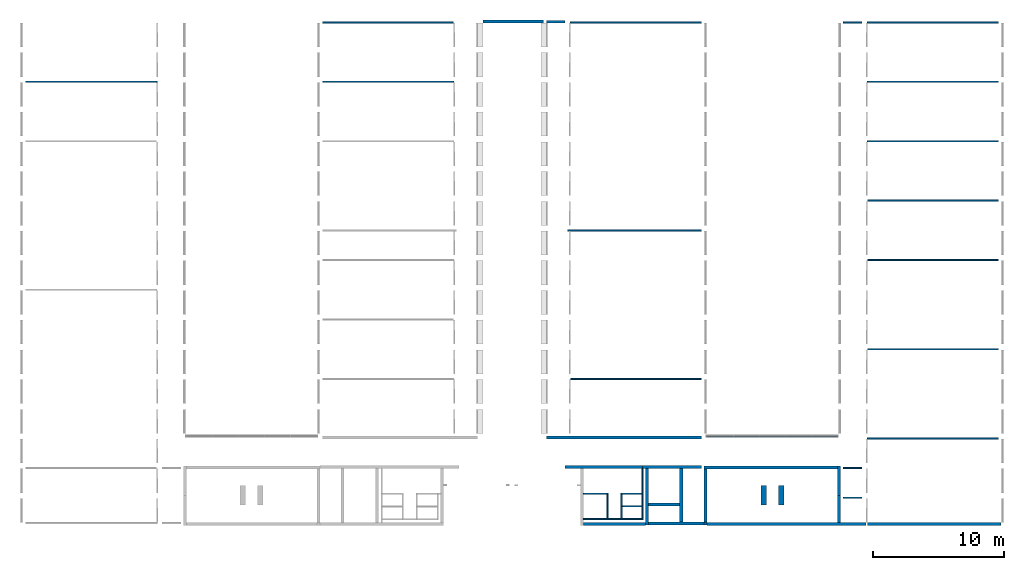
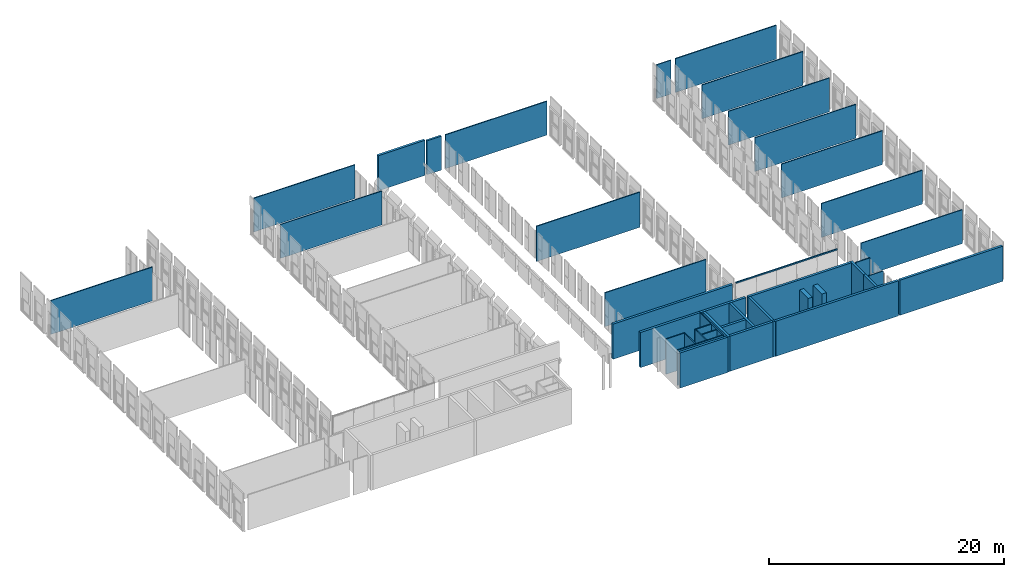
# One storey, part 5 of 13: 43 walls, 1 opening.
"""IFC2X3 building model written with IfcOpenShell, lengths in millimetres."""

from ifc_helpers import new_model, entity, si_unit, converted_unit, derived_unit, direction, frame, frame_2d, origin, place, context, subcontext, project, spatial, rectangle, extrude, material, layer, layer_set, layer_usage, type_object, element, save


model = new_model("IFC2X3")

# Units and contexts
model_context = context("Model", 3, precision=0.01, world=origin(), true_north=direction((6.12303176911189e-17, 1.0)))
body_context = subcontext(model_context, "Body", "Model", "MODEL_VIEW")
ifc_project = project(units=[si_unit("LENGTHUNIT", "METRE", prefix="MILLI"), si_unit("AREAUNIT", "SQUARE_METRE"), si_unit("VOLUMEUNIT", "CUBIC_METRE"), converted_unit("PLANEANGLEUNIT", "DEGREE", entity("IfcRatioMeasure", 0.0174532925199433), si_unit("PLANEANGLEUNIT", "RADIAN"), dimensions=[0, 0, 0, 0, 0, 0, 0]), si_unit("MASSUNIT", "GRAM", prefix="KILO"), derived_unit("MASSDENSITYUNIT", [(si_unit("MASSUNIT", "GRAM", prefix="KILO"), 1), (si_unit("LENGTHUNIT", "METRE"), -3)]), derived_unit("MOMENTOFINERTIAUNIT", [(si_unit("LENGTHUNIT", "METRE"), 4)]), si_unit("TIMEUNIT", "SECOND"), si_unit("FREQUENCYUNIT", "HERTZ"), si_unit("THERMODYNAMICTEMPERATUREUNIT", "DEGREE_CELSIUS"), derived_unit("THERMALTRANSMITTANCEUNIT", [(si_unit("MASSUNIT", "GRAM", prefix="KILO"), 1), (si_unit("THERMODYNAMICTEMPERATUREUNIT", "KELVIN"), -1), (si_unit("TIMEUNIT", "SECOND"), -3)]), derived_unit("VOLUMETRICFLOWRATEUNIT", [(si_unit("LENGTHUNIT", "METRE"), 3), (si_unit("TIMEUNIT", "SECOND"), -1)]), si_unit("ELECTRICCURRENTUNIT", "AMPERE"), si_unit("ELECTRICVOLTAGEUNIT", "VOLT"), si_unit("POWERUNIT", "WATT"), si_unit("FORCEUNIT", "NEWTON", prefix="KILO"), si_unit("ILLUMINANCEUNIT", "LUX"), si_unit("LUMINOUSFLUXUNIT", "LUMEN"), si_unit("LUMINOUSINTENSITYUNIT", "CANDELA"), derived_unit("USERDEFINED", [(si_unit("MASSUNIT", "GRAM", prefix="KILO"), -1), (si_unit("LENGTHUNIT", "METRE"), -2), (si_unit("TIMEUNIT", "SECOND"), 3), (si_unit("LUMINOUSFLUXUNIT", "LUMEN"), 1)]), derived_unit("LINEARVELOCITYUNIT", [(si_unit("LENGTHUNIT", "METRE"), 1), (si_unit("TIMEUNIT", "SECOND"), -1)]), si_unit("PRESSUREUNIT", "PASCAL"), derived_unit("USERDEFINED", [(si_unit("LENGTHUNIT", "METRE"), -2), (si_unit("MASSUNIT", "GRAM", prefix="KILO"), 1), (si_unit("TIMEUNIT", "SECOND"), -2)]), derived_unit("LINEARFORCEUNIT", [(si_unit("MASSUNIT", "GRAM", prefix="KILO"), 1), (si_unit("LENGTHUNIT", "METRE"), 1), (si_unit("TIMEUNIT", "SECOND"), -2), (si_unit("LENGTHUNIT", "METRE"), -1)]), derived_unit("PLANARFORCEUNIT", [(si_unit("MASSUNIT", "GRAM", prefix="KILO"), 1), (si_unit("LENGTHUNIT", "METRE"), 1), (si_unit("TIMEUNIT", "SECOND"), -2), (si_unit("LENGTHUNIT", "METRE"), -2)])], contexts=[model_context])

# Site, building, storey
site_placement = place(None, frame((10627.5135316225, 21939.0796949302, 0.0)))
site = spatial("IfcSite", under=ifc_project, at=site_placement, Name="Default", CompositionType="ELEMENT")
building_placement = place(site_placement, origin())
building = spatial("IfcBuilding", under=site, at=building_placement, CompositionType="ELEMENT")
storey_placement = place(building_placement, frame((0.0, 0.0, 7320.0)))
storey = spatial("IfcBuildingStorey", under=building, at=storey_placement, Name="R+2", CompositionType="ELEMENT", Elevation=7320.0)

# Wall, opening
ifc_material_1 = material(Name="Paint - White Lining")
ifc_layer_1 = layer(ifc_material_1, 3.0)
ifc_material_2 = material(Name="Concrete Masonry Units")
ifc_layer_2 = layer(ifc_material_2, 94.0)
ifc_layer_3 = layer(ifc_material_1, 3.0)
ifc_layer_set_1 = layer_set([ifc_layer_1, ifc_layer_2, ifc_layer_3], Name="Basic Wall:Wall-Int 100")
ifc_layer_usage_1 = layer_usage(ifc_layer_set_1, "AXIS2", "POSITIVE", -50.0)
wall_type_1 = type_object("IfcWallType", Name="Basic Wall:Wall-Int 100", PredefinedType="STANDARD", material=ifc_layer_set_1)
wall_1_placement = place(storey_placement, frame((51357.4864683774, -15206.0796949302, 3520.0), z_axis=(0.0, 0.0, 1.0), x_axis=(-1.0, 0.0, 0.0)))
wall_1 = element("IfcWallStandardCase", 1, at=wall_1_placement, inside=storey, type_object=wall_type_1, material=ifc_layer_usage_1, Name="Basic Wall:Wall-Int 100", ObjectType="Basic Wall:Wall-Int 100", context=body_context, shape_type="SweptSolid", body=[
    extrude(rectangle(XDim=9950.0, YDim=99.9999999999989, at=frame_2d((4975.0, 0.0), x_axis=(-1.0, 0.0))), origin(), (0.0, 0.0, 1.0), 140.000000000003),
])
opening_placement = place(wall_1_placement, origin())
element("IfcOpeningElement", 2, at=opening_placement, cuts=wall_1, Name="Basic Wall:Wall-Int 100", ObjectType="Opening", context=body_context, shape_type="SweptSolid", body=[
    extrude(rectangle(XDim=3520.0, YDim=9950.0, at=frame_2d((4.09272615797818e-12, -4.54747350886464e-13), x_axis=(0.0, 1.0))), frame((4975.0, -202.399999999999, -1760.0), z_axis=(0.0, 1.0, 0.0), x_axis=(-1.0, 0.0, 0.0)), (0.0, 0.0, 1.0), 404.799999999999),
])

# Walls
ifc_layer_usage_2 = layer_usage(ifc_layer_set_1, "AXIS2", "NEGATIVE", 50.0)
wall_2_placement = place(storey_placement, frame((40977.4864683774, 495.920305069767, 0.0), z_axis=(0.0, 0.0, 1.0), x_axis=(-1.0, 0.0, 0.0)))
element("IfcWallStandardCase", 3, at=wall_2_placement, inside=storey, type_object=wall_type_1, material=ifc_layer_usage_2, Name="Basic Wall:Wall-Int 100", ObjectType="Basic Wall:Wall-Int 100", context=body_context, shape_type="SweptSolid", body=[
    extrude(rectangle(XDim=10165.0, YDim=100.0, at=frame_2d((5082.50000000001, -7.105427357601e-15), x_axis=(-1.0, 0.0))), origin(), (0.0, 0.0, 1.0), 3660.0),
])
ifc_layer_usage_3 = layer_usage(ifc_layer_set_1, "AXIS2", "POSITIVE", -50.0)
wall_3_placement = place(storey_placement, frame((-10413.5135316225, 11795.2666202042, 0.0)))
element("IfcWallStandardCase", 4, at=wall_3_placement, inside=storey, type_object=wall_type_1, material=ifc_layer_usage_3, Name="Basic Wall:Wall-Int 100", ObjectType="Basic Wall:Wall-Int 100", context=body_context, shape_type="SweptSolid", body=[
    extrude(rectangle(XDim=10000.0, YDim=99.9999999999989, at=frame_2d((5000.0, -7.8159700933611e-14), x_axis=(-1.0, 0.0))), origin(), (0.0, 0.0, 1.0), 3520.0),
])
ifc_layer_usage_4 = layer_usage(ifc_layer_set_1, "AXIS2", "NEGATIVE", 50.0)
wall_4_placement = place(storey_placement, frame((22141.4496345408, 11795.9203008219, 0.0), z_axis=(0.0, 0.0, 1.0), x_axis=(-1.0, 0.0, 0.0)))
element("IfcWallStandardCase", 5, at=wall_4_placement, inside=storey, type_object=wall_type_1, material=ifc_layer_usage_4, Name="Basic Wall:Wall-Int 100", ObjectType="Basic Wall:Wall-Int 100", context=body_context, shape_type="SweptSolid", body=[
    extrude(rectangle(XDim=9963.96316616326, YDim=99.9999999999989, at=frame_2d((4981.98158308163, 0.0), x_axis=(-1.0, 0.0))), origin(), (0.0, 0.0, 1.0), 3520.0),
])
ifc_layer_usage_5 = layer_usage(ifc_layer_set_1, "AXIS2", "NEGATIVE", 50.0)
wall_5_placement = place(storey_placement, frame((40977.4864683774, -10804.0796949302, 0.0), z_axis=(0.0, 0.0, 1.0), x_axis=(-1.0, 0.0, 0.0)))
element("IfcWallStandardCase", 6, at=wall_5_placement, inside=storey, type_object=wall_type_1, material=ifc_layer_usage_5, Name="Basic Wall:Wall-Int 100", ObjectType="Basic Wall:Wall-Int 100", context=body_context, shape_type="SweptSolid", body=[
    extrude(rectangle(XDim=9950.0, YDim=99.9999999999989, at=frame_2d((4975.0, 0.0), x_axis=(-1.0, 0.0))), origin(), (0.0, 0.0, 1.0), 3520.0),
])
ifc_layer_usage_6 = layer_usage(ifc_layer_set_1, "AXIS2", "NEGATIVE", 50.0)
wall_6_placement = place(storey_placement, frame((63567.4864683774, 7275.92030506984, 0.0), z_axis=(0.0, 0.0, 1.0), x_axis=(-1.0, 0.0, 0.0)))
element("IfcWallStandardCase", 7, at=wall_6_placement, inside=storey, type_object=wall_type_1, material=ifc_layer_usage_6, Name="Basic Wall:Wall-Int 100", ObjectType="Basic Wall:Wall-Int 100", context=body_context, shape_type="SweptSolid", body=[
    extrude(rectangle(XDim=9951.99999999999, YDim=99.9999999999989, at=frame_2d((4975.99999999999, 0.0), x_axis=(-1.0, 0.0))), origin(), (0.0, 0.0, 1.0), 3520.0),
])
ifc_layer_usage_7 = layer_usage(ifc_layer_set_1, "AXIS2", "NEGATIVE", 50.0)
wall_7_placement = place(storey_placement, frame((63567.4864683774, 11795.9203050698, 0.0), z_axis=(0.0, 0.0, 1.0), x_axis=(-1.0, 0.0, 0.0)))
element("IfcWallStandardCase", 8, at=wall_7_placement, inside=storey, type_object=wall_type_1, material=ifc_layer_usage_7, Name="Basic Wall:Wall-Int 100", ObjectType="Basic Wall:Wall-Int 100", context=body_context, shape_type="SweptSolid", body=[
    extrude(rectangle(XDim=9951.99999999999, YDim=99.9999999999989, at=frame_2d((4975.99999999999, 0.0), x_axis=(-1.0, 0.0))), origin(), (0.0, 0.0, 1.0), 3520.0),
])
ifc_layer_usage_8 = layer_usage(ifc_layer_set_1, "AXIS2", "NEGATIVE", 50.0)
wall_8_placement = place(storey_placement, frame((63569.4864683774, 2755.92030506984, 0.0), z_axis=(0.0, 0.0, 1.0), x_axis=(-1.0, 0.0, 0.0)))
element("IfcWallStandardCase", 9, at=wall_8_placement, inside=storey, type_object=wall_type_1, material=ifc_layer_usage_8, Name="Basic Wall:Wall-Int 100", ObjectType="Basic Wall:Wall-Int 100", context=body_context, shape_type="SweptSolid", body=[
    extrude(rectangle(XDim=9952.0, YDim=100.0, at=frame_2d((4976.0, 0.0), x_axis=(-1.0, 0.0))), origin(), (0.0, 0.0, 1.0), 3520.0),
])
ifc_layer_usage_9 = layer_usage(ifc_layer_set_1, "AXIS2", "POSITIVE", -50.0)
wall_9_placement = place(storey_placement, frame((53617.4864683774, -1764.07969493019, 0.0)))
element("IfcWallStandardCase", 10, at=wall_9_placement, inside=storey, type_object=wall_type_1, material=ifc_layer_usage_9, Name="Basic Wall:Wall-Int 100", ObjectType="Basic Wall:Wall-Int 100", context=body_context, shape_type="SweptSolid", body=[
    extrude(rectangle(XDim=9949.99999999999, YDim=100.0, at=frame_2d((4975.0, 0.0), x_axis=(-1.0, 0.0))), origin(), (0.0, 0.0, 1.0), 3520.0),
])
ifc_layer_usage_10 = layer_usage(ifc_layer_set_1, "AXIS2", "POSITIVE", -50.0)
wall_10_placement = place(storey_placement, frame((53615.4864683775, -15324.0796949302, 0.0)))
element("IfcWallStandardCase", 11, at=wall_10_placement, inside=storey, type_object=wall_type_1, material=ifc_layer_usage_10, Name="Basic Wall:Wall-Int 100", ObjectType="Basic Wall:Wall-Int 100", context=body_context, shape_type="SweptSolid", body=[
    extrude(rectangle(XDim=9954.0, YDim=99.9999999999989, at=frame_2d((4977.0, 0.0), x_axis=(-1.0, 0.0))), origin(), (0.0, 0.0, 1.0), 3520.0),
])
ifc_layer_usage_11 = layer_usage(ifc_layer_set_1, "AXIS2", "NEGATIVE", 50.0)
wall_11_placement = place(storey_placement, frame((63567.4864683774, -8544.07969493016, 0.0), z_axis=(0.0, 0.0, 1.0), x_axis=(-1.0, 0.0, 0.0)))
element("IfcWallStandardCase", 12, at=wall_11_placement, inside=storey, type_object=wall_type_1, material=ifc_layer_usage_11, Name="Basic Wall:Wall-Int 100", ObjectType="Basic Wall:Wall-Int 100", context=body_context, shape_type="SweptSolid", body=[
    extrude(rectangle(XDim=9949.99999999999, YDim=99.9999999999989, at=frame_2d((4975.0, 0.0), x_axis=(-1.0, 0.0))), origin(), (0.0, 0.0, 1.0), 3520.0),
])
ifc_layer_usage_12 = layer_usage(ifc_layer_set_1, "AXIS2", "NEGATIVE", 50.0)
wall_12_placement = place(storey_placement, frame((53189.4864683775, -19844.0796949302, 0.0), z_axis=(0.0, 0.0, 1.0), x_axis=(-1.0, 0.0, 0.0)))
element("IfcWallStandardCase", 13, at=wall_12_placement, inside=storey, type_object=wall_type_1, material=ifc_layer_usage_12, Name="Basic Wall:Wall-Int 100", ObjectType="Basic Wall:Wall-Int 100", context=body_context, shape_type="SweptSolid", body=[
    extrude(rectangle(XDim=1402.0, YDim=100.000000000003, at=frame_2d((701.000000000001, 0.0), x_axis=(-1.0, 0.0))), origin(), (0.0, 0.0, 1.0), 3520.0),
])
ifc_layer_usage_13 = layer_usage(ifc_layer_set_1, "AXIS2", "NEGATIVE", 50.0)
wall_13_placement = place(storey_placement, frame((53187.4864683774, -17584.0796949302, 0.0), z_axis=(0.0, 0.0, 1.0), x_axis=(-1.0, 0.0, 0.0)))
element("IfcWallStandardCase", 14, at=wall_13_placement, inside=storey, type_object=wall_type_1, material=ifc_layer_usage_13, Name="Basic Wall:Wall-Int 100", ObjectType="Basic Wall:Wall-Int 100", context=body_context, shape_type="SweptSolid", body=[
    extrude(rectangle(XDim=1401.99999999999, YDim=99.9999999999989, at=frame_2d((700.999999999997, 0.0), x_axis=(-1.0, 0.0))), origin(), (0.0, 0.0, 1.0), 3520.0),
])
ifc_layer_usage_14 = layer_usage(ifc_layer_set_1, "AXIS2", "NEGATIVE", 50.0)
wall_14_placement = place(storey_placement, frame((36554.803606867, -21454.3072488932, 0.0), z_axis=(0.0, 0.0, 1.0), x_axis=(-1.0, 0.0, 0.0)))
element("IfcWallStandardCase", 15, at=wall_14_placement, inside=storey, type_object=wall_type_1, material=ifc_layer_usage_14, Name="Basic Wall:Wall-Int 100", ObjectType="Basic Wall:Wall-Int 100", context=body_context, shape_type="SweptSolid", body=[
    extrude(rectangle(XDim=4541.95714284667, YDim=100.000000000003, at=frame_2d((2270.97857142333, -1.59872115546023e-13), x_axis=(-1.0, 0.0))), origin(), (0.0, 0.0, 1.0), 3660.0),
])
ifc_layer_usage_15 = layer_usage(ifc_layer_set_1, "AXIS2", "POSITIVE", -50.0)
wall_15_placement = place(storey_placement, frame((36504.803606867, -21404.3072488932, 0.0), z_axis=(0.0, 0.0, 1.0), x_axis=(0.0, 1.0, 0.0)))
element("IfcWallStandardCase", 16, at=wall_15_placement, inside=storey, type_object=wall_type_1, material=ifc_layer_usage_15, Name="Basic Wall:Wall-Int 100", ObjectType="Basic Wall:Wall-Int 100", context=body_context, shape_type="SweptSolid", body=[
    extrude(rectangle(XDim=3770.22755396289, YDim=100.000000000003, at=frame_2d((1885.11377698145, -8.88178419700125e-14), x_axis=(-1.0, 0.0))), origin(), (0.0, 0.0, 1.0), 3660.0),
])
ifc_layer_usage_16 = layer_usage(ifc_layer_set_1, "AXIS2", "POSITIVE", -50.0)
wall_16_placement = place(storey_placement, frame((36454.803606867, -19536.6934719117, 0.0), z_axis=(0.0, 0.0, 1.0), x_axis=(-1.0, 0.0, 0.0)))
element("IfcWallStandardCase", 17, at=wall_16_placement, inside=storey, type_object=wall_type_1, material=ifc_layer_usage_16, Name="Basic Wall:Wall-Int 100", ObjectType="Basic Wall:Wall-Int 100", context=body_context, shape_type="SweptSolid", body=[
    extrude(rectangle(XDim=1590.0, YDim=100.000000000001, at=frame_2d((794.999999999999, 1.01252339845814e-12), x_axis=(-1.0, 0.0))), origin(), (0.0, 0.0, 1.0), 3660.0),
])
ifc_layer_usage_17 = layer_usage(ifc_layer_set_1, "AXIS2", "POSITIVE", -50.0)
wall_17_placement = place(storey_placement, frame((34914.803606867, -19586.6934719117, 0.0), z_axis=(0.0, 0.0, 1.0), x_axis=(0.0, -1.0, 0.0)))
element("IfcWallStandardCase", 18, at=wall_17_placement, inside=storey, type_object=wall_type_1, material=ifc_layer_usage_17, Name="Basic Wall:Wall-Int 100", ObjectType="Basic Wall:Wall-Int 100", context=body_context, shape_type="SweptSolid", body=[
    extrude(rectangle(XDim=1817.6137769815, YDim=100.000000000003, at=frame_2d((908.806888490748, -1.63424829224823e-13), x_axis=(-1.0, 0.0))), origin(), (0.0, 0.0, 1.0), 3660.0),
])
ifc_layer_usage_18 = layer_usage(ifc_layer_set_1, "AXIS2", "POSITIVE", -50.0)
wall_18_placement = place(storey_placement, frame((34964.803606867, -20489.0796949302, 0.0)))
element("IfcWallStandardCase", 19, at=wall_18_placement, inside=storey, type_object=wall_type_1, material=ifc_layer_usage_18, Name="Basic Wall:Wall-Int 100", ObjectType="Basic Wall:Wall-Int 100", context=body_context, shape_type="SweptSolid", body=[
    extrude(rectangle(XDim=1490.0, YDim=100.000000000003, at=frame_2d((745.0, -1.35003119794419e-13), x_axis=(-1.0, 0.0))), origin(), (0.0, 0.0, 1.0), 3660.0),
])
ifc_layer_usage_19 = layer_usage(ifc_layer_set_1, "AXIS2", "NEGATIVE", 50.0)
wall_19_placement = place(storey_placement, frame((32012.8464640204, -19537.5188881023, 0.0)))
element("IfcWallStandardCase", 20, at=wall_19_placement, inside=storey, type_object=wall_type_1, material=ifc_layer_usage_19, Name="Basic Wall:Wall-Int 100", ObjectType="Basic Wall:Wall-Int 100", context=body_context, shape_type="SweptSolid", body=[
    extrude(rectangle(XDim=1879.64000435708, YDim=100.000000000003, at=frame_2d((939.820002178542, -1.06581410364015e-12), x_axis=(-1.0, 0.0))), origin(), (0.0, 0.0, 1.0), 3660.0),
])
ifc_layer_usage_20 = layer_usage(ifc_layer_set_1, "AXIS2", "NEGATIVE", 50.0)
wall_20_placement = place(storey_placement, frame((33842.4864683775, -19587.5188881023, 0.0), z_axis=(0.0, 0.0, 1.0), x_axis=(0.0, -1.0, 0.0)))
element("IfcWallStandardCase", 21, at=wall_20_placement, inside=storey, type_object=wall_type_1, material=ifc_layer_usage_20, Name="Basic Wall:Wall-Int 100", ObjectType="Basic Wall:Wall-Int 100", context=body_context, shape_type="SweptSolid", body=[
    extrude(rectangle(XDim=1816.78836079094, YDim=100.000000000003, at=frame_2d((908.394180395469, -1.63424829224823e-13), x_axis=(-1.0, 0.0))), origin(), (0.0, 0.0, 1.0), 3660.0),
])
ifc_layer_usage_21 = layer_usage(ifc_layer_set_1, "AXIS2", "POSITIVE", -50.0)
wall_21_placement = place(storey_placement, frame((12175.4864683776, 16315.9203050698, 0.0)))
element("IfcWallStandardCase", 22, at=wall_21_placement, inside=storey, type_object=wall_type_1, material=ifc_layer_usage_21, Name="Basic Wall:Wall-Int 100", ObjectType="Basic Wall:Wall-Int 100", context=body_context, shape_type="SweptSolid", body=[
    extrude(rectangle(XDim=9952.0, YDim=99.9999999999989, at=frame_2d((4976.0, 0.0), x_axis=(-1.0, 0.0))), origin(), (0.0, 0.0, 1.0), 3520.0),
])
ifc_layer_usage_22 = layer_usage(ifc_layer_set_1, "AXIS2", "POSITIVE", -50.0)
wall_22_placement = place(storey_placement, frame((31025.4864683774, 16315.9203050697, 0.0)))
element("IfcWallStandardCase", 23, at=wall_22_placement, inside=storey, type_object=wall_type_1, material=ifc_layer_usage_22, Name="Basic Wall:Wall-Int 100", ObjectType="Basic Wall:Wall-Int 100", context=body_context, shape_type="SweptSolid", body=[
    extrude(rectangle(XDim=9952.0, YDim=99.9999999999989, at=frame_2d((4976.0, 0.0), x_axis=(-1.0, 0.0))), origin(), (0.0, 0.0, 1.0), 3520.0),
])
ifc_layer_usage_23 = layer_usage(ifc_layer_set_1, "AXIS2", "POSITIVE", -50.0)
wall_23_placement = place(storey_placement, frame((53615.4864683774, 16315.9203050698, 0.0)))
element("IfcWallStandardCase", 24, at=wall_23_placement, inside=storey, type_object=wall_type_1, material=ifc_layer_usage_23, Name="Basic Wall:Wall-Int 100", ObjectType="Basic Wall:Wall-Int 100", context=body_context, shape_type="SweptSolid", body=[
    extrude(rectangle(XDim=9952.00000000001, YDim=99.9999999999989, at=frame_2d((4976.0, 0.0), x_axis=(-1.0, 0.0))), origin(), (0.0, 0.0, 1.0), 3520.0),
])
ifc_layer_usage_24 = layer_usage(ifc_layer_set_1, "AXIS2", "NEGATIVE", 50.0)
wall_24_placement = place(storey_placement, frame((53189.4864683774, 16315.9203050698, 0.0), z_axis=(0.0, 0.0, 1.0), x_axis=(-1.0, 0.0, 0.0)))
element("IfcWallStandardCase", 25, at=wall_24_placement, inside=storey, type_object=wall_type_1, material=ifc_layer_usage_24, Name="Basic Wall:Wall-Int 100", ObjectType="Basic Wall:Wall-Int 100", context=body_context, shape_type="SweptSolid", body=[
    extrude(rectangle(XDim=1403.99999999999, YDim=99.9999999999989, at=frame_2d((701.999999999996, 0.0), x_axis=(-1.0, 0.0))), origin(), (0.0, 0.0, 1.0), 3520.0),
])
ifc_layer_4 = layer(ifc_material_1, 15.0)
ifc_material_3 = material(Name="Concrete - Precast Concrete - 35 MPa")
ifc_layer_5 = layer(ifc_material_3, 400.0)
ifc_layer_6 = layer(ifc_material_1, 15.0)
ifc_layer_set_2 = layer_set([ifc_layer_4, ifc_layer_5, ifc_layer_6], Name="Basic Wall:Mur430PentureBlanche")
ifc_layer_usage_25 = layer_usage(ifc_layer_set_2, "AXIS2", "POSITIVE", -215.0)
wall_type_2 = type_object("IfcWallType", Name="Basic Wall:Mur430PentureBlanche", PredefinedType="STANDARD", material=ifc_layer_set_2)
wall_25_placement = place(storey_placement, frame((47059.9064788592, -18920.8001977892, 0.0), z_axis=(0.0, 0.0, 1.0), x_axis=(0.0, -1.0, 0.0)))
element("IfcWallStandardCase", 26, at=wall_25_placement, inside=storey, type_object=wall_type_2, material=ifc_layer_usage_25, Name="Basic Wall:Mur430PentureBlanche", ObjectType="Basic Wall:Mur430PentureBlanche", context=body_context, shape_type="SweptSolid", body=[
    extrude(rectangle(XDim=1490.00177328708, YDim=430.000000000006, at=frame_2d((745.000886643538, -1.08002495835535e-12), x_axis=(-1.0, 0.0))), origin(), (0.0, 0.0, 1.0), 3660.0),
])
ifc_layer_usage_26 = layer_usage(ifc_layer_set_2, "AXIS2", "POSITIVE", -215.0)
wall_26_placement = place(storey_placement, frame((45714.9043663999, -18920.8001977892, 0.0), z_axis=(0.0, 0.0, 1.0), x_axis=(0.0, -1.0, 0.0)))
element("IfcWallStandardCase", 27, at=wall_26_placement, inside=storey, type_object=wall_type_2, material=ifc_layer_usage_26, Name="Basic Wall:Mur430PentureBlanche", ObjectType="Basic Wall:Mur430PentureBlanche", context=body_context, shape_type="SweptSolid", body=[
    extrude(rectangle(XDim=1490.00177328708, YDim=430.000000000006, at=frame_2d((745.000886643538, -1.08002495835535e-12), x_axis=(-1.0, 0.0))), origin(), (0.0, 0.0, 1.0), 3660.0),
])
ifc_layer_7 = layer(ifc_material_1, 15.0)
ifc_layer_8 = layer(ifc_material_3, 200.0)
ifc_layer_9 = layer(ifc_material_1, 15.0)
ifc_layer_set_3 = layer_set([ifc_layer_7, ifc_layer_8, ifc_layer_9], Name="Basic Wall:Mur200PentureBlanche 2")
ifc_layer_usage_27 = layer_usage(ifc_layer_set_3, "AXIS2", "POSITIVE", -115.0)
wall_type_3 = type_object("IfcWallType", Name="Basic Wall:Mur200PentureBlanche 2", PredefinedType="STANDARD", material=ifc_layer_set_3)
wall_27_placement = place(storey_placement, frame((51457.4864683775, -21724.0796949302, 0.0), z_axis=(0.0, 0.0, 1.0), x_axis=(0.0, 1.0, 0.0)))
element("IfcWallStandardCase", 28, at=wall_27_placement, inside=storey, type_object=wall_type_3, material=ifc_layer_usage_27, Name="Basic Wall:Mur200PentureBlanche 2", ObjectType="Basic Wall:Mur200PentureBlanche 2", context=body_context, shape_type="SweptSolid", body=[
    extrude(rectangle(XDim=2045.00000000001, YDim=230.0, at=frame_2d((1022.5, -1.66267000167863e-12), x_axis=(-1.0, 0.0))), origin(), (0.0, 0.0, 1.0), 3660.0),
])
ifc_layer_usage_28 = layer_usage(ifc_layer_set_3, "AXIS2", "NEGATIVE", 115.0)
wall_28_placement = place(storey_placement, frame((51459.4864683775, -19679.0796949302, 0.0), z_axis=(0.0, 0.0, 1.0), x_axis=(0.0, 1.0, 0.0)))
element("IfcWallStandardCase", 29, at=wall_28_placement, inside=storey, type_object=wall_type_3, material=ifc_layer_usage_28, Name="Basic Wall:Mur200PentureBlanche 2", ObjectType="Basic Wall:Mur200PentureBlanche 2", context=body_context, shape_type="SweptSolid", body=[
    extrude(rectangle(XDim=2259.99999999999, YDim=230.0, at=frame_2d((1130.0, -1.83320025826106e-12), x_axis=(-1.0, 0.0))), origin(), (0.0, 0.0, 1.0), 3660.0),
])
ifc_layer_usage_29 = layer_usage(ifc_layer_set_3, "AXIS2", "NEGATIVE", 115.0)
wall_29_placement = place(storey_placement, frame((51344.4864683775, -17534.0796949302, 0.0), z_axis=(0.0, 0.0, 1.0), x_axis=(-1.0, 0.0, 0.0)))
element("IfcWallStandardCase", 30, at=wall_29_placement, inside=storey, type_object=wall_type_3, material=ifc_layer_usage_29, Name="Basic Wall:Mur200PentureBlanche 2", ObjectType="Basic Wall:Mur200PentureBlanche 2", context=body_context, shape_type="SweptSolid", body=[
    extrude(rectangle(XDim=10152.0, YDim=230.0, at=frame_2d((5076.0, -3.19744231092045e-13), x_axis=(-1.0, 0.0))), origin(), (0.0, 0.0, 1.0), 3660.0),
])
ifc_layer_usage_30 = layer_usage(ifc_layer_set_3, "AXIS2", "NEGATIVE", 115.0)
wall_30_placement = place(storey_placement, frame((41307.4864683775, -17649.0796949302, 0.0), z_axis=(0.0, 0.0, 1.0), x_axis=(0.0, -1.0, 0.0)))
element("IfcWallStandardCase", 31, at=wall_30_placement, inside=storey, type_object=wall_type_3, material=ifc_layer_usage_30, Name="Basic Wall:Mur200PentureBlanche 2", ObjectType="Basic Wall:Mur200PentureBlanche 2", context=body_context, shape_type="SweptSolid", body=[
    extrude(rectangle(XDim=4034.99999999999, YDim=230.0, at=frame_2d((2017.5, -8.81072992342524e-13), x_axis=(-1.0, 0.0))), origin(), (0.0, 0.0, 1.0), 3660.0),
])
ifc_layer_usage_31 = layer_usage(ifc_layer_set_3, "AXIS2", "NEGATIVE", 115.0)
wall_31_placement = place(storey_placement, frame((41307.4864683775, -17649.0796949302, 0.0), z_axis=(0.0, 0.0, 1.0), x_axis=(0.0, -1.0, 0.0)))
element("IfcWallStandardCase", 32, at=wall_31_placement, inside=storey, type_object=wall_type_3, material=ifc_layer_usage_31, Name="Basic Wall:Mur200PentureBlanche 2", ObjectType="Basic Wall:Mur200PentureBlanche 2", context=body_context, shape_type="SweptSolid", body=[
    extrude(rectangle(XDim=4264.99999999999, YDim=230.0, at=frame_2d((2132.5, -1.17239551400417e-12), x_axis=(-1.0, 0.0))), origin(), (0.0, 0.0, 1.0), 3660.0),
])
ifc_layer_usage_32 = layer_usage(ifc_layer_set_3, "AXIS2", "POSITIVE", -115.0)
wall_32_placement = place(storey_placement, frame((40977.4864683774, -17519.0796949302, 0.0), z_axis=(0.0, 0.0, 1.0), x_axis=(-1.0, 0.0, 0.0)))
element("IfcWallStandardCase", 33, at=wall_32_placement, inside=storey, type_object=wall_type_3, material=ifc_layer_usage_32, Name="Basic Wall:Mur200PentureBlanche 2", ObjectType="Basic Wall:Mur200PentureBlanche 2", context=body_context, shape_type="SweptSolid", body=[
    extrude(rectangle(XDim=4472.6828615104, YDim=230.0, at=frame_2d((2236.3414307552, 7.105427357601e-15), x_axis=(-1.0, 0.0))), origin(), (0.0, 0.0, 1.0), 3660.0),
])
ifc_layer_usage_33 = layer_usage(ifc_layer_set_3, "AXIS2", "POSITIVE", -115.0)
wall_33_placement = place(storey_placement, frame((36850.1073360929, -17634.0796949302, 0.0), z_axis=(0.0, 0.0, 1.0), x_axis=(0.0, -1.0, 0.0)))
element("IfcWallStandardCase", 34, at=wall_33_placement, inside=storey, type_object=wall_type_3, material=ifc_layer_usage_33, Name="Basic Wall:Mur200PentureBlanche 2", ObjectType="Basic Wall:Mur200PentureBlanche 2", context=body_context, shape_type="SweptSolid", body=[
    extrude(rectangle(XDim=4280.0, YDim=230.0, at=frame_2d((2140.0, 0.0), x_axis=(-1.0, 0.0))), origin(), (0.0, 0.0, 1.0), 3660.0),
])
ifc_layer_usage_34 = layer_usage(ifc_layer_set_3, "AXIS2", "POSITIVE", -115.0)
wall_34_placement = place(storey_placement, frame((36965.1073360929, -21799.0796949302, 0.0)))
element("IfcWallStandardCase", 35, at=wall_34_placement, inside=storey, type_object=wall_type_3, material=ifc_layer_usage_34, Name="Basic Wall:Mur200PentureBlanche 2", ObjectType="Basic Wall:Mur200PentureBlanche 2", context=body_context, shape_type="SweptSolid", body=[
    extrude(rectangle(XDim=4227.37913228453, YDim=230.0, at=frame_2d((2113.68956614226, -1.70530256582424e-13), x_axis=(-1.0, 0.0))), origin(), (0.0, 0.0, 1.0), 3660.0),
])
ifc_layer_usage_35 = layer_usage(ifc_layer_set_3, "AXIS2", "NEGATIVE", 115.0)
wall_35_placement = place(storey_placement, frame((39450.1065292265, -17634.0796949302, 0.0), z_axis=(0.0, 0.0, 1.0), x_axis=(0.0, -1.0, 0.0)))
element("IfcWallStandardCase", 36, at=wall_35_placement, inside=storey, type_object=wall_type_3, material=ifc_layer_usage_35, Name="Basic Wall:Mur200PentureBlanche 2", ObjectType="Basic Wall:Mur200PentureBlanche 2", context=body_context, shape_type="SweptSolid", body=[
    extrude(rectangle(XDim=4050.0, YDim=230.0, at=frame_2d((2025.0, -1.20792265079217e-13), x_axis=(-1.0, 0.0))), origin(), (0.0, 0.0, 1.0), 3660.0),
])
ifc_layer_usage_36 = layer_usage(ifc_layer_set_3, "AXIS2", "POSITIVE", -115.0)
wall_36_placement = place(storey_placement, frame((39335.1065292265, -20344.0796949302, 0.0), z_axis=(0.0, 0.0, 1.0), x_axis=(-1.0, 0.0, 0.0)))
element("IfcWallStandardCase", 37, at=wall_36_placement, inside=storey, type_object=wall_type_3, material=ifc_layer_usage_36, Name="Basic Wall:Mur200PentureBlanche 2", ObjectType="Basic Wall:Mur200PentureBlanche 2", context=body_context, shape_type="SweptSolid", body=[
    extrude(rectangle(XDim=2369.99919313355, YDim=230.0, at=frame_2d((1184.99959656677, -3.76587649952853e-13), x_axis=(-1.0, 0.0))), origin(), (0.0, 0.0, 1.0), 3660.0),
])
ifc_layer_usage_37 = layer_usage(ifc_layer_set_3, "AXIS2", "NEGATIVE", 115.0)
wall_37_placement = place(storey_placement, frame((30607.8464640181, -17519.0796949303, 0.0)))
element("IfcWallStandardCase", 38, at=wall_37_placement, inside=storey, type_object=wall_type_3, material=ifc_layer_usage_37, Name="Basic Wall:Mur200PentureBlanche 2", ObjectType="Basic Wall:Mur200PentureBlanche 2", context=body_context, shape_type="SweptSolid", body=[
    extrude(rectangle(XDim=5896.95714284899, YDim=230.0, at=frame_2d((2948.4785714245, -2.1316282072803e-14), x_axis=(-1.0, 0.0))), origin(), (0.0, 0.0, 1.0), 3660.0),
])
ifc_layer_usage_38 = layer_usage(ifc_layer_set_3, "AXIS2", "POSITIVE", -115.0)
wall_38_placement = place(storey_placement, frame((32012.8464640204, -21839.0796949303, 0.0)))
element("IfcWallStandardCase", 39, at=wall_38_placement, inside=storey, type_object=wall_type_3, material=ifc_layer_usage_38, Name="Basic Wall:Mur200PentureBlanche 2", ObjectType="Basic Wall:Mur200PentureBlanche 2", context=body_context, shape_type="SweptSolid", body=[
    extrude(rectangle(XDim=4722.26087207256, YDim=230.0, at=frame_2d((2361.13043603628, -4.40536496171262e-13), x_axis=(-1.0, 0.0))), origin(), (0.0, 0.0, 1.0), 3660.0),
])
ifc_layer_usage_39 = layer_usage(ifc_layer_set_3, "AXIS2", "NEGATIVE", 115.0)
wall_39_placement = place(storey_placement, frame((40977.4864683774, -15274.0796949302, 0.0), z_axis=(0.0, 0.0, 1.0), x_axis=(-1.0, 0.0, 0.0)))
element("IfcWallStandardCase", 40, at=wall_39_placement, inside=storey, type_object=wall_type_3, material=ifc_layer_usage_39, Name="Basic Wall:Mur200PentureBlanche 2", ObjectType="Basic Wall:Mur200PentureBlanche 2", context=body_context, shape_type="SweptSolid", body=[
    extrude(rectangle(XDim=11782.0, YDim=230.0, at=frame_2d((5891.0, 0.0), x_axis=(-1.0, 0.0))), origin(), (0.0, 0.0, 1.0), 3660.0),
])
ifc_layer_usage_40 = layer_usage(ifc_layer_set_3, "AXIS2", "NEGATIVE", 115.0)
wall_40_placement = place(storey_placement, frame((41422.4864683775, -21839.0796949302, 0.0)))
element("IfcWallStandardCase", 41, at=wall_40_placement, inside=storey, type_object=wall_type_3, material=ifc_layer_usage_40, Name="Basic Wall:Mur200PentureBlanche 2", ObjectType="Basic Wall:Mur200PentureBlanche 2", context=body_context, shape_type="SweptSolid", body=[
    extrude(rectangle(XDim=12078.0, YDim=230.0, at=frame_2d((6038.99999999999, 1.4210854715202e-13), x_axis=(-1.0, 0.0))), origin(), (0.0, 0.0, 1.0), 3660.0),
])
ifc_layer_usage_41 = layer_usage(ifc_layer_set_3, "AXIS2", "NEGATIVE", 115.0)
wall_41_placement = place(storey_placement, frame((53617.4864683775, -21839.0796949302, 0.0)))
element("IfcWallStandardCase", 42, at=wall_41_placement, inside=storey, type_object=wall_type_3, material=ifc_layer_usage_41, Name="Basic Wall:Mur200PentureBlanche 2", ObjectType="Basic Wall:Mur200PentureBlanche 2", context=body_context, shape_type="SweptSolid", body=[
    extrude(rectangle(XDim=10153.8882072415, YDim=230.0, at=frame_2d((5076.94410362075, 0.0), x_axis=(-1.0, 0.0))), origin(), (0.0, 0.0, 1.0), 3660.0),
])
ifc_layer_usage_42 = layer_usage(ifc_layer_set_3, "AXIS2", "POSITIVE", -115.0)
wall_42_placement = place(storey_placement, frame((24390.0884870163, 16379.2417029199, 0.0)))
element("IfcWallStandardCase", 43, at=wall_42_placement, inside=storey, type_object=wall_type_3, material=ifc_layer_usage_42, Name="Basic Wall:Mur200PentureBlanche 2", ObjectType="Basic Wall:Mur200PentureBlanche 2", context=body_context, shape_type="SweptSolid", body=[
    extrude(rectangle(XDim=4592.39798136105, YDim=230.0, at=frame_2d((2296.19899068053, 2.55795384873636e-13), x_axis=(-1.0, 0.0))), origin(), (0.0, 0.0, 1.0), 3660.0),
])
ifc_material_4 = material(Name="Concrete - Cast-in-Place Concrete")
ifc_layer_10 = layer(ifc_material_4, 200.0)
ifc_layer_set_4 = layer_set([ifc_layer_10], Name="Basic Wall:Mur S/SOL 20")
ifc_layer_usage_43 = layer_usage(ifc_layer_set_4, "AXIS2", "POSITIVE", -100.0)
wall_type_4 = type_object("IfcWallType", Name="Basic Wall:Mur S/SOL 20", PredefinedType="STANDARD", material=ifc_layer_set_4)
wall_43_placement = place(storey_placement, frame((29195.4864683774, 16365.9203050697, 0.0)))
element("IfcWallStandardCase", 44, at=wall_43_placement, inside=storey, type_object=wall_type_4, material=ifc_layer_usage_43, Name="Basic Wall:Mur S/SOL 20", ObjectType="Basic Wall:Mur S/SOL 20", context=body_context, shape_type="SweptSolid", body=[
    extrude(rectangle(XDim=1404.0, YDim=199.999999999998, at=frame_2d((702.000000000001, 0.0), x_axis=(-1.0, 0.0))), origin(), (0.0, 0.0, 1.0), 3520.0),
])

save(model, "model.ifc")
